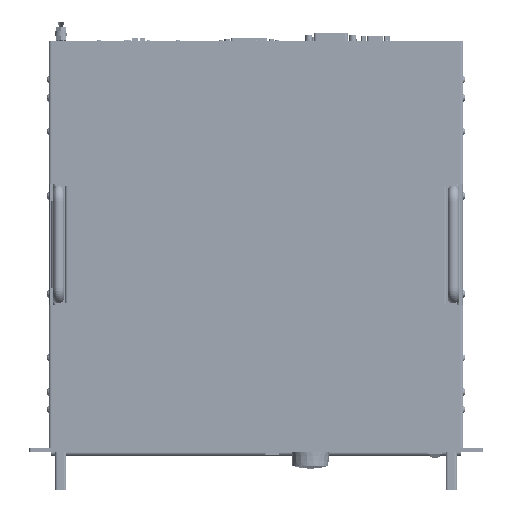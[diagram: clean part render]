
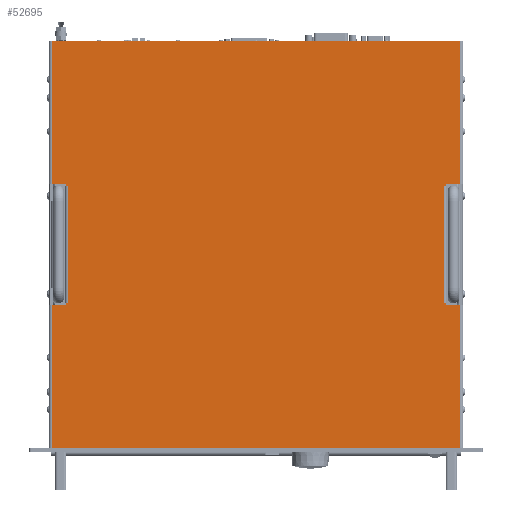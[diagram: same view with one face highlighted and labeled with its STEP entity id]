
A CAD part, top view. The second image highlights one B-rep face of the part: STEP entity #52695.
In plain terms, the highlighted planar face has unit normal (0, 0, 1).
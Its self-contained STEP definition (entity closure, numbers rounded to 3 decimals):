
#52695=ADVANCED_FACE('',(#108356),#108357,.F.);
#108356=FACE_OUTER_BOUND('',#193372,.T.);
#108357=PLANE('',#193373);
#193372=EDGE_LOOP('',(#347498,#347499,#347500,#347501,#347502,#347503,#347504,#347505,#347506,#347507,#347508,#347509,#347510,#347511,#347512,#347513,#347514,#347515,#347516,#347517));
#193373=AXIS2_PLACEMENT_3D('',#347518,#347519,#347520);
#347498=ORIENTED_EDGE('',*,*,#415364,.T.);
#347499=ORIENTED_EDGE('',*,*,#415384,.F.);
#347500=ORIENTED_EDGE('',*,*,#415385,.F.);
#347501=ORIENTED_EDGE('',*,*,#415028,.F.);
#347502=ORIENTED_EDGE('',*,*,#415350,.F.);
#347503=ORIENTED_EDGE('',*,*,#415013,.F.);
#347504=ORIENTED_EDGE('',*,*,#415339,.F.);
#347505=ORIENTED_EDGE('',*,*,#415386,.F.);
#347506=ORIENTED_EDGE('',*,*,#415382,.T.);
#347507=ORIENTED_EDGE('',*,*,#415377,.F.);
#347508=ORIENTED_EDGE('',*,*,#415374,.T.);
#347509=ORIENTED_EDGE('',*,*,#415387,.F.);
#347510=ORIENTED_EDGE('',*,*,#415315,.F.);
#347511=ORIENTED_EDGE('',*,*,#415003,.F.);
#347512=ORIENTED_EDGE('',*,*,#415304,.F.);
#347513=ORIENTED_EDGE('',*,*,#415023,.F.);
#347514=ORIENTED_EDGE('',*,*,#415388,.F.);
#347515=ORIENTED_EDGE('',*,*,#415389,.F.);
#347516=ORIENTED_EDGE('',*,*,#415361,.T.);
#347517=ORIENTED_EDGE('',*,*,#415369,.T.);
#347518=CARTESIAN_POINT('',(241.3,261.875,459.841));
#347519=DIRECTION('',(0.,0.,-1.0));
#347520=DIRECTION('',(-1.0,0.,0.));
#415003=EDGE_CURVE('',#503676,#503678,#503679,.T.);
#415013=EDGE_CURVE('',#503694,#503696,#503697,.T.);
#415023=EDGE_CURVE('',#503712,#503714,#503715,.T.);
#415028=EDGE_CURVE('',#503721,#503723,#503724,.T.);
#415304=EDGE_CURVE('',#503714,#503676,#504154,.T.);
#415315=EDGE_CURVE('',#503678,#504169,#504170,.T.);
#415339=EDGE_CURVE('',#504202,#503694,#504204,.T.);
#415350=EDGE_CURVE('',#503696,#503721,#504219,.T.);
#415361=EDGE_CURVE('',#504230,#504233,#504235,.T.);
#415364=EDGE_CURVE('',#504240,#504237,#504241,.T.);
#415369=EDGE_CURVE('',#504233,#504240,#504246,.T.);
#415374=EDGE_CURVE('',#504252,#504250,#504253,.T.);
#415377=EDGE_CURVE('',#504252,#504256,#504257,.T.);
#415382=EDGE_CURVE('',#504262,#504256,#504264,.T.);
#415384=EDGE_CURVE('',#504266,#504237,#504267,.T.);
#415385=EDGE_CURVE('',#503723,#504266,#504268,.T.);
#415386=EDGE_CURVE('',#504262,#504202,#504269,.T.);
#415387=EDGE_CURVE('',#504169,#504250,#504270,.T.);
#415388=EDGE_CURVE('',#504271,#503712,#504272,.T.);
#415389=EDGE_CURVE('',#504230,#504271,#504273,.T.);
#503676=VERTEX_POINT('',#632279);
#503678=VERTEX_POINT('',#632281);
#503679=LINE('',#632282,#632283);
#503694=VERTEX_POINT('',#632301);
#503696=VERTEX_POINT('',#632303);
#503697=LINE('',#632304,#632305);
#503712=VERTEX_POINT('',#632323);
#503714=VERTEX_POINT('',#632325);
#503715=LINE('',#632326,#632327);
#503721=VERTEX_POINT('',#632334);
#503723=VERTEX_POINT('',#632336);
#503724=LINE('',#632337,#632338);
#504154=LINE('',#632889,#632890);
#504169=VERTEX_POINT('',#632910);
#504170=LINE('',#632911,#632912);
#504202=VERTEX_POINT('',#632958);
#504204=LINE('',#632961,#632962);
#504219=LINE('',#632982,#632983);
#504230=VERTEX_POINT('',#632998);
#504233=VERTEX_POINT('',#633002);
#504235=LINE('',#633004,#633005);
#504237=VERTEX_POINT('',#633007);
#504240=VERTEX_POINT('',#633011);
#504241=LINE('',#633012,#633013);
#504246=LINE('',#633018,#633019);
#504250=VERTEX_POINT('',#633024);
#504252=VERTEX_POINT('',#633027);
#504253=LINE('',#633028,#633029);
#504256=VERTEX_POINT('',#633032);
#504257=LINE('',#633033,#633034);
#504262=VERTEX_POINT('',#633039);
#504264=LINE('',#633042,#633043);
#504266=VERTEX_POINT('',#633045);
#504267=LINE('',#633046,#633047);
#504268=LINE('',#633048,#633049);
#504269=LINE('',#633050,#633051);
#504270=LINE('',#633052,#633053);
#504271=VERTEX_POINT('',#633054);
#504272=LINE('',#633055,#633056);
#504273=LINE('',#633057,#633058);
#632279=CARTESIAN_POINT('',(458.977,478.5,459.841));
#632281=CARTESIAN_POINT('',(458.977,326.5,459.841));
#632282=CARTESIAN_POINT('',(458.977,332.188,459.841));
#632283=VECTOR('',#703367,1.0);
#632301=CARTESIAN_POINT('',(458.977,197.25,459.841));
#632303=CARTESIAN_POINT('',(458.977,45.25,459.841));
#632304=CARTESIAN_POINT('',(458.977,191.563,459.841));
#632305=VECTOR('',#703383,1.0);
#632323=CARTESIAN_POINT('',(23.623,326.5,459.841));
#632325=CARTESIAN_POINT('',(23.623,478.5,459.841));
#632326=CARTESIAN_POINT('',(23.623,332.188,459.841));
#632327=VECTOR('',#703399,1.0);
#632334=CARTESIAN_POINT('',(23.623,45.25,459.841));
#632336=CARTESIAN_POINT('',(23.623,197.25,459.841));
#632337=CARTESIAN_POINT('',(23.623,191.563,459.841));
#632338=VECTOR('',#703407,1.0);
#632889=CARTESIAN_POINT('',(20.873,478.5,459.841));
#632890=VECTOR('',#703793,1.0);
#632910=CARTESIAN_POINT('',(443.727,326.5,459.841));
#632911=CARTESIAN_POINT('',(461.727,326.5,459.841));
#632912=VECTOR('',#703811,1.0);
#632958=CARTESIAN_POINT('',(443.727,197.25,459.841));
#632961=CARTESIAN_POINT('',(443.727,197.25,459.841));
#632962=VECTOR('',#703839,1.0);
#632982=CARTESIAN_POINT('',(461.727,45.25,459.841));
#632983=VECTOR('',#703857,1.0);
#632998=CARTESIAN_POINT('',(38.873,324.5,459.841));
#633002=CARTESIAN_POINT('',(40.623,324.5,459.841));
#633004=CARTESIAN_POINT('',(140.007,324.5,459.841));
#633005=VECTOR('',#703869,1.0);
#633007=CARTESIAN_POINT('',(38.873,199.25,459.841));
#633011=CARTESIAN_POINT('',(40.623,199.25,459.841));
#633012=CARTESIAN_POINT('',(140.007,199.25,459.841));
#633013=VECTOR('',#703871,1.0);
#633018=CARTESIAN_POINT('',(40.623,261.875,459.841));
#633019=VECTOR('',#703881,1.0);
#633024=CARTESIAN_POINT('',(443.727,324.5,459.841));
#633027=CARTESIAN_POINT('',(441.977,324.5,459.841));
#633028=CARTESIAN_POINT('',(342.593,324.5,459.841));
#633029=VECTOR('',#703884,1.0);
#633032=CARTESIAN_POINT('',(441.977,199.25,459.841));
#633033=CARTESIAN_POINT('',(441.977,261.875,459.841));
#633034=VECTOR('',#703888,1.0);
#633039=CARTESIAN_POINT('',(443.727,199.25,459.841));
#633042=CARTESIAN_POINT('',(342.593,199.25,459.841));
#633043=VECTOR('',#703896,1.0);
#633045=CARTESIAN_POINT('',(38.873,197.25,459.841));
#633046=CARTESIAN_POINT('',(38.873,197.25,459.841));
#633047=VECTOR('',#703897,1.0);
#633048=CARTESIAN_POINT('',(20.873,197.25,459.841));
#633049=VECTOR('',#703898,1.0);
#633050=CARTESIAN_POINT('',(443.727,199.25,459.841));
#633051=VECTOR('',#703899,1.0);
#633052=CARTESIAN_POINT('',(443.727,326.5,459.841));
#633053=VECTOR('',#703900,1.0);
#633054=CARTESIAN_POINT('',(38.873,326.5,459.841));
#633055=CARTESIAN_POINT('',(38.873,326.5,459.841));
#633056=VECTOR('',#703901,1.0);
#633057=CARTESIAN_POINT('',(38.873,324.5,459.841));
#633058=VECTOR('',#703902,1.0);
#703367=DIRECTION('',(0.0,-1.0,0.0));
#703383=DIRECTION('',(0.0,-1.0,0.0));
#703399=DIRECTION('',(0.0,1.0,0.0));
#703407=DIRECTION('',(0.0,1.0,0.0));
#703793=DIRECTION('',(1.0,0.0,0.0));
#703811=DIRECTION('',(-1.0,0.0,0.0));
#703839=DIRECTION('',(1.0,0.0,0.0));
#703857=DIRECTION('',(-1.0,0.0,0.0));
#703869=DIRECTION('',(1.0,0.0,0.0));
#703871=DIRECTION('',(-1.0,0.,0.0));
#703881=DIRECTION('',(0.0,-1.0,0.0));
#703884=DIRECTION('',(1.0,0.0,0.0));
#703888=DIRECTION('',(0.0,-1.0,0.0));
#703896=DIRECTION('',(-1.0,0.,0.0));
#703897=DIRECTION('',(0.0,1.0,0.0));
#703898=DIRECTION('',(1.0,0.0,0.0));
#703899=DIRECTION('',(0.0,-1.0,0.0));
#703900=DIRECTION('',(0.0,-1.0,0.0));
#703901=DIRECTION('',(-1.0,0.0,0.0));
#703902=DIRECTION('',(0.0,1.0,0.0));
